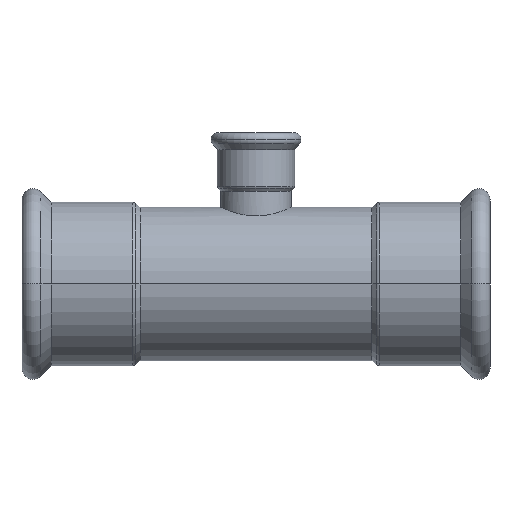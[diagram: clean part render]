
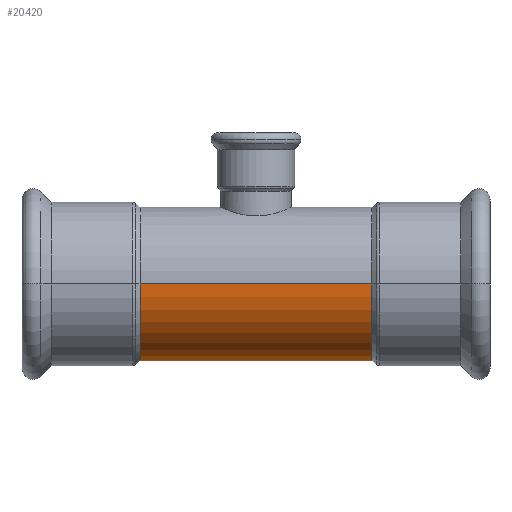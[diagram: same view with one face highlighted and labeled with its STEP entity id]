
A CAD part, front view. The second image highlights one B-rep face of the part: STEP entity #20420.
In plain terms, the highlighted cylindrical face has radius 38.05 mm (diameter 76.1 mm), a partial arc.
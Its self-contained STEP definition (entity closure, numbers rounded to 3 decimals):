
#12550=CARTESIAN_POINT('',(-231.011,147.522,0.));
#12560=DIRECTION('',(1.,0.,0.));
#12570=DIRECTION('',(0.,0.,-1.));
#12580=AXIS2_PLACEMENT_3D('',#12550,#12560,#12570);
#12590=CYLINDRICAL_SURFACE('',#12580,38.05);
#20060=CARTESIAN_POINT('',(-231.011,147.522,38.05));
#20070=DIRECTION('',(1.,0.,0.));
#20080=VECTOR('',#20070,1.);
#20090=LINE('',#20060,#20080);
#20100=CARTESIAN_POINT('',(-346.011,147.522,38.05));
#20110=VERTEX_POINT('',#20100);
#20120=CARTESIAN_POINT('',(-231.011,147.522,38.05));
#20130=VERTEX_POINT('',#20120);
#20140=EDGE_CURVE('',#20110,#20130,#20090,.T.);
#20150=ORIENTED_EDGE('',*,*,#20140,.F.);
#20160=CARTESIAN_POINT('',(-231.011,147.522,0.));
#20170=DIRECTION('',(1.,0.,0.));
#20180=DIRECTION('',(0.,0.,-1.));
#20190=AXIS2_PLACEMENT_3D('',#20160,#20170,#20180);
#20200=CIRCLE('',#20190,38.05);
#20210=CARTESIAN_POINT('',(-231.011,147.522,-38.05));
#20220=VERTEX_POINT('',#20210);
#20230=EDGE_CURVE('',#20130,#20220,#20200,.T.);
#20240=ORIENTED_EDGE('',*,*,#20230,.F.);
#20250=CARTESIAN_POINT('',(-231.011,147.522,-38.05));
#20260=DIRECTION('',(1.,0.,0.));
#20270=VECTOR('',#20260,1.);
#20280=LINE('',#20250,#20270);
#20290=CARTESIAN_POINT('',(-346.011,147.522,-38.05));
#20300=VERTEX_POINT('',#20290);
#20310=EDGE_CURVE('',#20300,#20220,#20280,.T.);
#20320=ORIENTED_EDGE('',*,*,#20310,.T.);
#20330=CARTESIAN_POINT('',(-346.011,147.522,0.));
#20340=DIRECTION('',(1.,0.,0.));
#20350=DIRECTION('',(0.,0.,-1.));
#20360=AXIS2_PLACEMENT_3D('',#20330,#20340,#20350);
#20370=CIRCLE('',#20360,38.05);
#20380=EDGE_CURVE('',#20110,#20300,#20370,.T.);
#20390=ORIENTED_EDGE('',*,*,#20380,.T.);
#20400=EDGE_LOOP('',(#20390,#20320,#20240,#20150));
#20410=FACE_OUTER_BOUND('',#20400,.T.);
#20420=ADVANCED_FACE('',(#20410),#12590,.T.);
